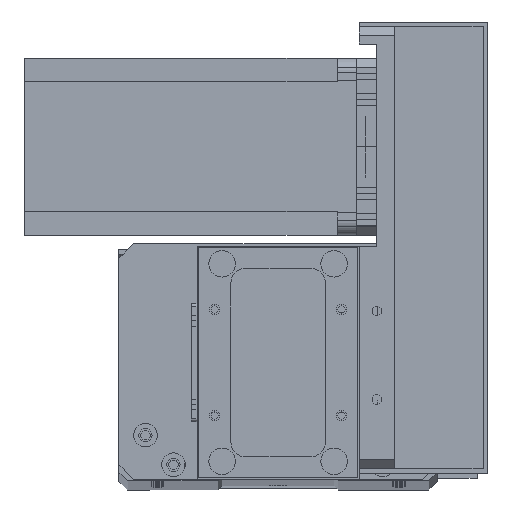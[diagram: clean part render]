
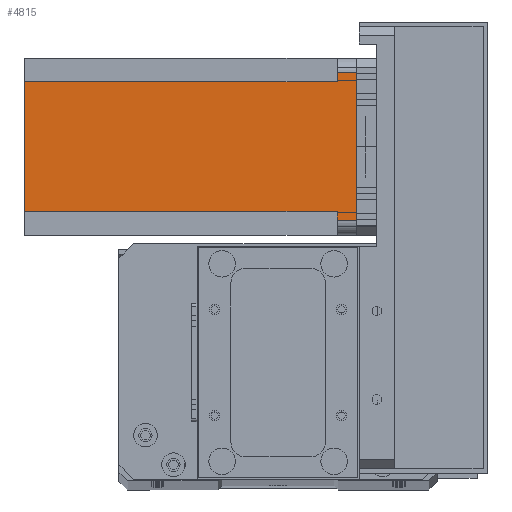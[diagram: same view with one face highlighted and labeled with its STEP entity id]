
A CAD part, top view. The second image highlights one B-rep face of the part: STEP entity #4815.
In plain terms, the highlighted planar face has unit normal (0, 0, 1) as drawn and (0, 1, 0) by its records, which use the part's own axes.
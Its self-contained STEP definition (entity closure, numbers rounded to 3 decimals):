
#81 = DIRECTION ( 'NONE',  ( -1., 0., 0. ) ) ;
#444 = FACE_OUTER_BOUND ( 'NONE', #7452, .T. ) ;
#561 = LINE ( 'NONE', #23826, #18722 ) ;
#1093 = CARTESIAN_POINT ( 'NONE',  ( 5., 60., -6.5 ) ) ;
#2148 = CARTESIAN_POINT ( 'NONE',  ( 8., 60., -112.5 ) ) ;
#2345 = EDGE_CURVE ( 'NONE', #13845, #27472, #10121, .T. ) ;
#2363 = VECTOR ( 'NONE', #81, 1000. ) ;
#3063 = ORIENTED_EDGE ( 'NONE', *, *, #4276, .F. ) ;
#3293 = DIRECTION ( 'NONE',  ( -1., 0., 0. ) ) ;
#3382 = LINE ( 'NONE', #15869, #27295 ) ;
#4276 = EDGE_CURVE ( 'NONE', #17049, #31724, #25969, .T. ) ;
#4304 = ORIENTED_EDGE ( 'NONE', *, *, #2345, .T. ) ;
#4561 = DIRECTION ( 'NONE',  ( -1., 0., 0. ) ) ;
#4815 = ADVANCED_FACE ( 'NONE', ( #444 ), #28429, .T. ) ;
#4945 = CARTESIAN_POINT ( 'NONE',  ( 0., 60., -112.5 ) ) ;
#5827 = ORIENTED_EDGE ( 'NONE', *, *, #17127, .T. ) ;
#6058 = VECTOR ( 'NONE', #11159, 1000. ) ;
#6277 = VECTOR ( 'NONE', #15489, 1000. ) ;
#7452 = EDGE_LOOP ( 'NONE', ( #14608, #4304, #17702, #3063, #5827, #25950, #27033, #28108 ) ) ;
#8045 = CARTESIAN_POINT ( 'NONE',  ( 52., 60., -112.5 ) ) ;
#8542 = CARTESIAN_POINT ( 'NONE',  ( 8., 60., -6.5 ) ) ;
#8776 = DIRECTION ( 'NONE',  ( 0., 1., 0. ) ) ;
#9274 = VERTEX_POINT ( 'NONE', #1093 ) ;
#9639 = CARTESIAN_POINT ( 'NONE',  ( 8., 60., -6.5 ) ) ;
#10121 = LINE ( 'NONE', #21008, #15126 ) ;
#11096 = CARTESIAN_POINT ( 'NONE',  ( 55., 60., 0. ) ) ;
#11159 = DIRECTION ( 'NONE',  ( 0., 0., 1. ) ) ;
#12215 = EDGE_CURVE ( 'NONE', #9274, #13488, #25768, .T. ) ;
#12459 = EDGE_CURVE ( 'NONE', #22376, #9274, #19603, .T. ) ;
#13488 = VERTEX_POINT ( 'NONE', #24493 ) ;
#13845 = VERTEX_POINT ( 'NONE', #11096 ) ;
#14608 = ORIENTED_EDGE ( 'NONE', *, *, #27739, .F. ) ;
#14632 = LINE ( 'NONE', #20558, #26184 ) ;
#15126 = VECTOR ( 'NONE', #23490, 1000. ) ;
#15489 = DIRECTION ( 'NONE',  ( 0., 0., 1. ) ) ;
#15869 = CARTESIAN_POINT ( 'NONE',  ( 8., 60., -112.5 ) ) ;
#17049 = VERTEX_POINT ( 'NONE', #26970 ) ;
#17127 = EDGE_CURVE ( 'NONE', #17049, #19051, #22077, .T. ) ;
#17353 = AXIS2_PLACEMENT_3D ( 'NONE', #18599, #8776, #26035 ) ;
#17702 = ORIENTED_EDGE ( 'NONE', *, *, #21850, .F. ) ;
#18367 = DIRECTION ( 'NONE',  ( 0., 0., -1. ) ) ;
#18599 = CARTESIAN_POINT ( 'NONE',  ( 0., 60., -112.5 ) ) ;
#18722 = VECTOR ( 'NONE', #26275, 1000. ) ;
#19051 = VERTEX_POINT ( 'NONE', #2148 ) ;
#19603 = LINE ( 'NONE', #9639, #31922 ) ;
#20558 = CARTESIAN_POINT ( 'NONE',  ( 0., 60., 0. ) ) ;
#21008 = CARTESIAN_POINT ( 'NONE',  ( 55., 60., -112.5 ) ) ;
#21850 = EDGE_CURVE ( 'NONE', #31724, #27472, #561, .T. ) ;
#22077 = LINE ( 'NONE', #4945, #2363 ) ;
#22376 = VERTEX_POINT ( 'NONE', #8542 ) ;
#23456 = CARTESIAN_POINT ( 'NONE',  ( 5., 60., -112.5 ) ) ;
#23490 = DIRECTION ( 'NONE',  ( 0., 0., -1. ) ) ;
#23786 = CARTESIAN_POINT ( 'NONE',  ( 52., 60., -6.5 ) ) ;
#23826 = CARTESIAN_POINT ( 'NONE',  ( 52., 60., -6.5 ) ) ;
#24458 = CARTESIAN_POINT ( 'NONE',  ( 55., 60., -6.5 ) ) ;
#24493 = CARTESIAN_POINT ( 'NONE',  ( 5., 60., 0. ) ) ;
#25768 = LINE ( 'NONE', #23456, #6058 ) ;
#25950 = ORIENTED_EDGE ( 'NONE', *, *, #28323, .F. ) ;
#25969 = LINE ( 'NONE', #8045, #6277 ) ;
#26035 = DIRECTION ( 'NONE',  ( 0., 0., 1. ) ) ;
#26184 = VECTOR ( 'NONE', #3293, 1000. ) ;
#26275 = DIRECTION ( 'NONE',  ( 1., 0., 0. ) ) ;
#26970 = CARTESIAN_POINT ( 'NONE',  ( 52., 60., -112.5 ) ) ;
#27033 = ORIENTED_EDGE ( 'NONE', *, *, #12459, .T. ) ;
#27295 = VECTOR ( 'NONE', #18367, 1000. ) ;
#27472 = VERTEX_POINT ( 'NONE', #24458 ) ;
#27739 = EDGE_CURVE ( 'NONE', #13845, #13488, #14632, .T. ) ;
#28108 = ORIENTED_EDGE ( 'NONE', *, *, #12215, .T. ) ;
#28323 = EDGE_CURVE ( 'NONE', #22376, #19051, #3382, .T. ) ;
#28429 = PLANE ( 'NONE',  #17353 ) ;
#31724 = VERTEX_POINT ( 'NONE', #23786 ) ;
#31922 = VECTOR ( 'NONE', #4561, 1000. ) ;
